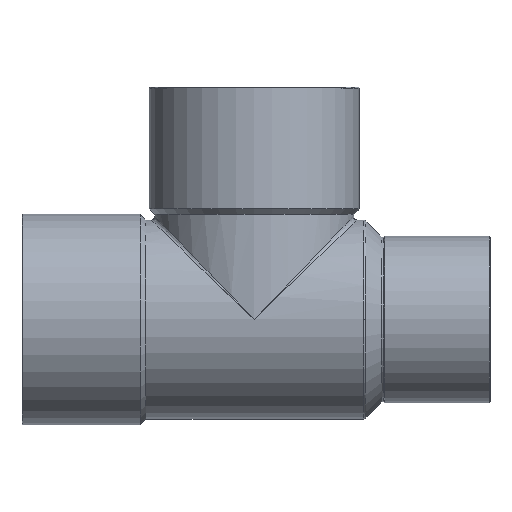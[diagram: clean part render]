
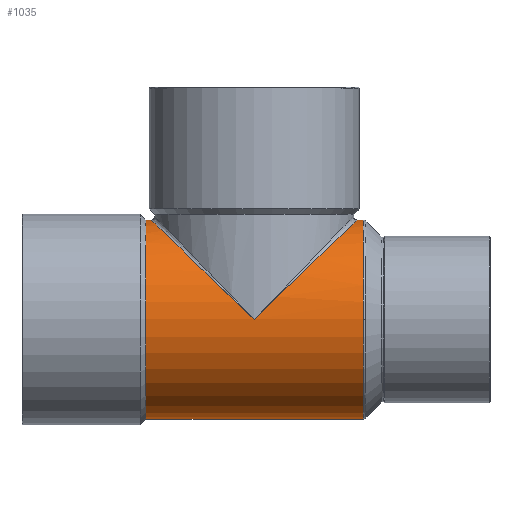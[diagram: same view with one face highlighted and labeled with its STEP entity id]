
A CAD part, top view. The second image highlights one B-rep face of the part: STEP entity #1035.
In plain terms, the highlighted cylindrical face has radius 27 mm (diameter 54 mm), a partial arc.
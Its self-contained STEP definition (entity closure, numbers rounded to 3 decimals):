
#369=CARTESIAN_POINT('',(-29.379,27.0,0.0));
#370=VERTEX_POINT('',#369);
#386=CARTESIAN_POINT('',(-29.379,-27.0,0.));
#387=VERTEX_POINT('',#386);
#394=CARTESIAN_POINT('',(-29.379,0.0,0.0));
#395=DIRECTION('',(1.0,0.0,0.0));
#396=DIRECTION('',(0.0,1.0,0.0));
#397=AXIS2_PLACEMENT_3D('',#394,#395,#396);
#398=CIRCLE('',#397,27.0);
#399=EDGE_CURVE('',#370,#387,#398,.T.);
#506=CARTESIAN_POINT('',(0.0,0.0,27.0));
#507=VERTEX_POINT('',#506);
#971=CARTESIAN_POINT('',(0.337,0.0,0.0));
#972=DIRECTION('',(1.0,0.0,0.0));
#973=DIRECTION('',(0.0,1.0,0.0));
#974=AXIS2_PLACEMENT_3D('',#971,#972,#973);
#975=CYLINDRICAL_SURFACE('',#974,27.0);
#976=CARTESIAN_POINT('',(-28.,27.,0.));
#977=VERTEX_POINT('',#976);
#978=CARTESIAN_POINT('',(-29.379,27.0,0.0));
#979=DIRECTION('',(1.0,0.0,0.0));
#980=VECTOR('',#979,1.379);
#981=LINE('',#978,#980);
#982=EDGE_CURVE('',#370,#977,#981,.T.);
#983=ORIENTED_EDGE('',*,*,#982,.F.);
#984=ORIENTED_EDGE('',*,*,#399,.T.);
#985=CARTESIAN_POINT('',(29.639,-27.0,0.));
#986=VERTEX_POINT('',#985);
#987=CARTESIAN_POINT('',(29.639,-27.0,0.));
#988=DIRECTION('',(-1.0,0.0,0.0));
#989=VECTOR('',#988,59.018);
#990=LINE('',#987,#989);
#991=EDGE_CURVE('',#986,#387,#990,.T.);
#992=ORIENTED_EDGE('',*,*,#991,.F.);
#993=CARTESIAN_POINT('',(29.639,0.,27.0));
#994=VERTEX_POINT('',#993);
#995=CARTESIAN_POINT('',(29.639,0.0,0.0));
#996=DIRECTION('',(1.0,0.0,0.0));
#997=DIRECTION('',(0.0,-1.0,0.0));
#998=AXIS2_PLACEMENT_3D('',#995,#996,#997);
#999=CIRCLE('',#998,27.0);
#1000=EDGE_CURVE('',#994,#986,#999,.T.);
#1001=ORIENTED_EDGE('',*,*,#1000,.F.);
#1002=CARTESIAN_POINT('',(29.639,27.0,0.0));
#1003=VERTEX_POINT('',#1002);
#1004=CARTESIAN_POINT('',(29.639,0.0,0.0));
#1005=DIRECTION('',(1.0,0.0,0.0));
#1006=DIRECTION('',(0.0,-1.0,0.0));
#1007=AXIS2_PLACEMENT_3D('',#1004,#1005,#1006);
#1008=CIRCLE('',#1007,27.0);
#1009=EDGE_CURVE('',#1003,#994,#1008,.T.);
#1010=ORIENTED_EDGE('',*,*,#1009,.F.);
#1011=CARTESIAN_POINT('',(28.,27.,0.));
#1012=VERTEX_POINT('',#1011);
#1013=CARTESIAN_POINT('',(28.,27.,0.));
#1014=DIRECTION('',(1.0,0.0,0.0));
#1015=VECTOR('',#1014,1.639);
#1016=LINE('',#1013,#1015);
#1017=EDGE_CURVE('',#1012,#1003,#1016,.T.);
#1018=ORIENTED_EDGE('',*,*,#1017,.F.);
#1019=CARTESIAN_POINT('',(0.0,0.0,0.0));
#1020=DIRECTION('',(-0.694,0.72,0.));
#1021=DIRECTION('',(0.72,0.694,0.0));
#1022=AXIS2_PLACEMENT_3D('',#1019,#1020,#1021);
#1023=ELLIPSE('',#1022,38.897,27.);
#1024=EDGE_CURVE('',#507,#1012,#1023,.T.);
#1025=ORIENTED_EDGE('',*,*,#1024,.F.);
#1026=CARTESIAN_POINT('',(0.0,0.0,0.0));
#1027=DIRECTION('',(0.694,0.72,0.));
#1028=DIRECTION('',(-0.72,0.694,0.0));
#1029=AXIS2_PLACEMENT_3D('',#1026,#1027,#1028);
#1030=ELLIPSE('',#1029,38.897,27.);
#1031=EDGE_CURVE('',#977,#507,#1030,.T.);
#1032=ORIENTED_EDGE('',*,*,#1031,.F.);
#1033=EDGE_LOOP('',(#983,#984,#992,#1001,#1010,#1018,#1025,#1032));
#1034=FACE_OUTER_BOUND('',#1033,.T.);
#1035=ADVANCED_FACE('',(#1034),#975,.T.);
